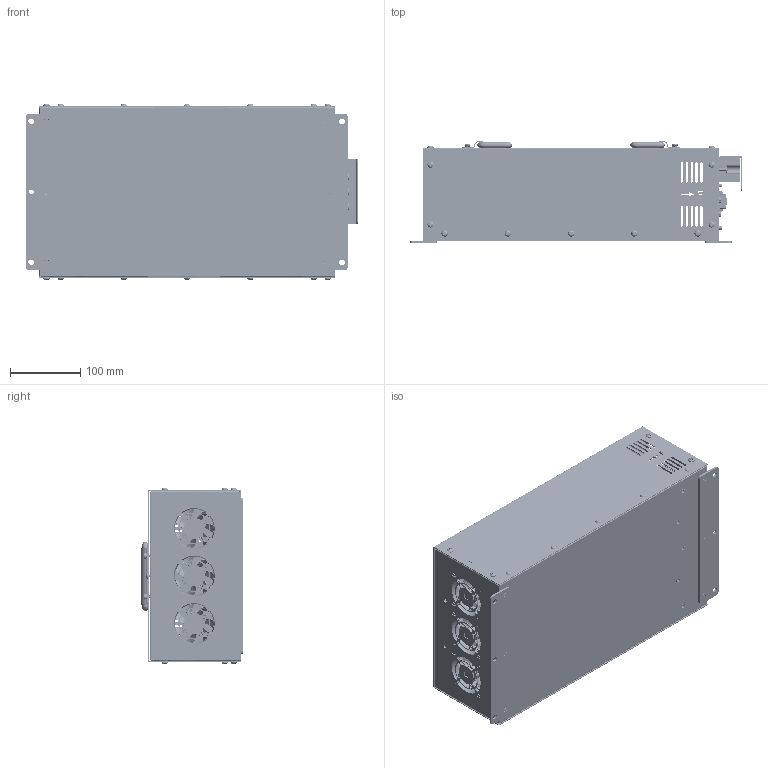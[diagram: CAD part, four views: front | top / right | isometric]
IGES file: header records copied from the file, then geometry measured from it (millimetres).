
Global section: file name: VX3COM_OLED_21pitch단자대_HANDLE2_2026.06.18_단순화_1,22HAutodesk; native system: Inventor 2026; preprocessor: unknown; author: Administrator; date: 20260618.134653; units: millimetre
Bounding box: 471.11 x 145.46 x 250.84 mm (x, y, z)
Volume: 782938 mm3; surface area: 970006.3 mm2
Topology: 15 solids, 15 shells, 9224 faces, 25349 edges, 16775 vertices
Faces by surface type: bspline 9224
